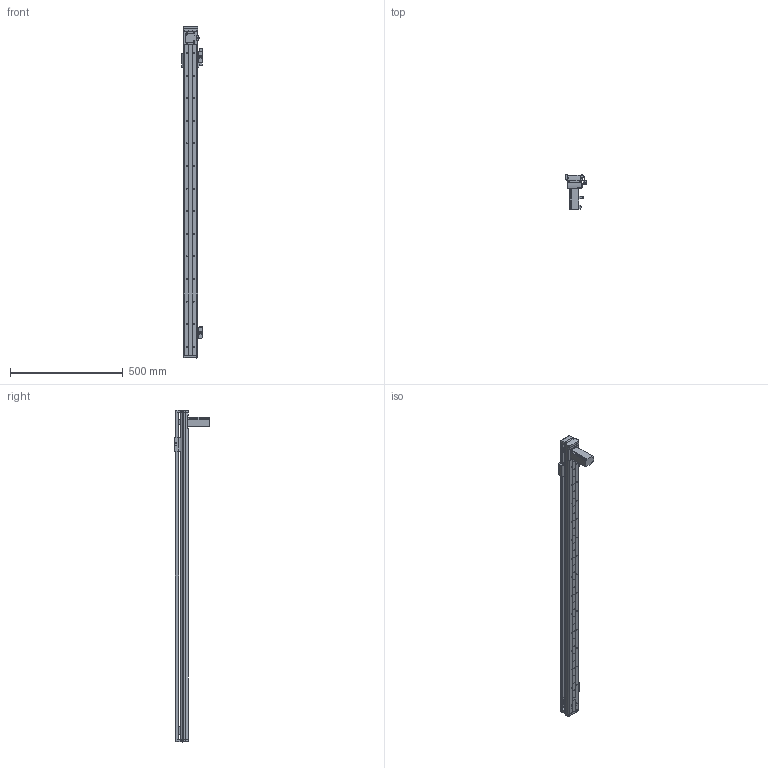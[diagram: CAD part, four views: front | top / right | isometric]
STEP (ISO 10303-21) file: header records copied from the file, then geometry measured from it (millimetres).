
FILE_DESCRIPTION (( 'STEP AP203' ), '1' );
FILE_NAME ('EXT65T-1200.STEP', '2016-02-22T08:54:42', ( 'QQ' ), ( '' ), 'SwSTEP 2.0', 'SolidWorks 2013', '' );
FILE_SCHEMA (( 'CONFIG_CONTROL_DESIGN' ));
Length unit declared in the file: millimetre
Products named in the file (1): EXT65T-1200
Bounding box: 90.5 x 153.5 x 1470.01 mm (x, y, z)
Surface area: 883888.5 mm2 (no closed solid volume)
Topology: 0 solids, 33 shells, 1817 faces, 4863 edges, 3227 vertices
Faces by surface type: cylinder 1009, plane 738, torus 36, bspline 20, cone 12, sphere 2
Entity records: 62561 total; most frequent: CARTESIAN_POINT 14721, DIRECTION 10396, ORIENTED_EDGE 9722, EDGE_CURVE 4862, AXIS2_PLACEMENT_3D 3908, VERTEX_POINT 3227, VECTOR 2580, LINE 2580
